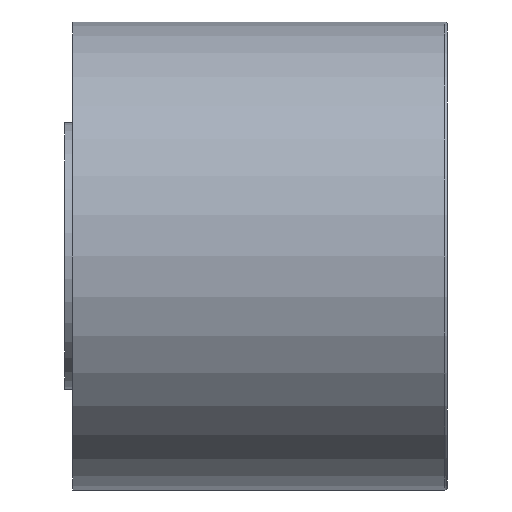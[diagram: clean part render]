
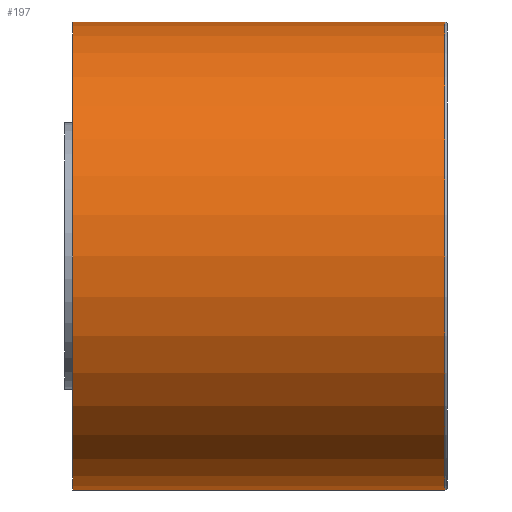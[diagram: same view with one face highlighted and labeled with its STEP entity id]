
A CAD part, front view. The second image highlights one B-rep face of the part: STEP entity #197.
In plain terms, the highlighted cylindrical face has radius 10 mm (diameter 20 mm), a full revolution.
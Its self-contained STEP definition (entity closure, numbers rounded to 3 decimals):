
#197 = ADVANCED_FACE( '', ( #288, #289 ), #290, .T. );
#288 = FACE_OUTER_BOUND( '', #415, .T. );
#289 = FACE_OUTER_BOUND( '', #416, .T. );
#290 = CYLINDRICAL_SURFACE( '', #417, 10. );
#415 = EDGE_LOOP( '', ( #693 ) );
#416 = EDGE_LOOP( '', ( #694 ) );
#417 = AXIS2_PLACEMENT_3D( '', #695, #696, #697 );
#693 = ORIENTED_EDGE( '', *, *, #861, .T. );
#694 = ORIENTED_EDGE( '', *, *, #923, .F. );
#695 = CARTESIAN_POINT( '', ( 12.2, 0., 0. ) );
#696 = DIRECTION( '', ( -1., 0., 0. ) );
#697 = DIRECTION( '', ( 0., 0., -1. ) );
#861 = EDGE_CURVE( '', #977, #977, #978, .T. );
#923 = EDGE_CURVE( '', #1081, #1081, #1082, .T. );
#977 = VERTEX_POINT( '', #1170 );
#978 = CIRCLE( '', #1171, 10. );
#1081 = VERTEX_POINT( '', #1334 );
#1082 = CIRCLE( '', #1335, 10. );
#1170 = CARTESIAN_POINT( '', ( -3.8, 0., -10. ) );
#1171 = AXIS2_PLACEMENT_3D( '', #1427, #1428, #1429 );
#1334 = CARTESIAN_POINT( '', ( 12.1, 0., -10. ) );
#1335 = AXIS2_PLACEMENT_3D( '', #1493, #1494, #1495 );
#1427 = CARTESIAN_POINT( '', ( -3.8, 0., 0. ) );
#1428 = DIRECTION( '', ( 1., 0., 0. ) );
#1429 = DIRECTION( '', ( 0., 0., -1. ) );
#1493 = CARTESIAN_POINT( '', ( 12.1, 0., 0. ) );
#1494 = DIRECTION( '', ( 1., 0., 0. ) );
#1495 = DIRECTION( '', ( 0., 0., -1. ) );
